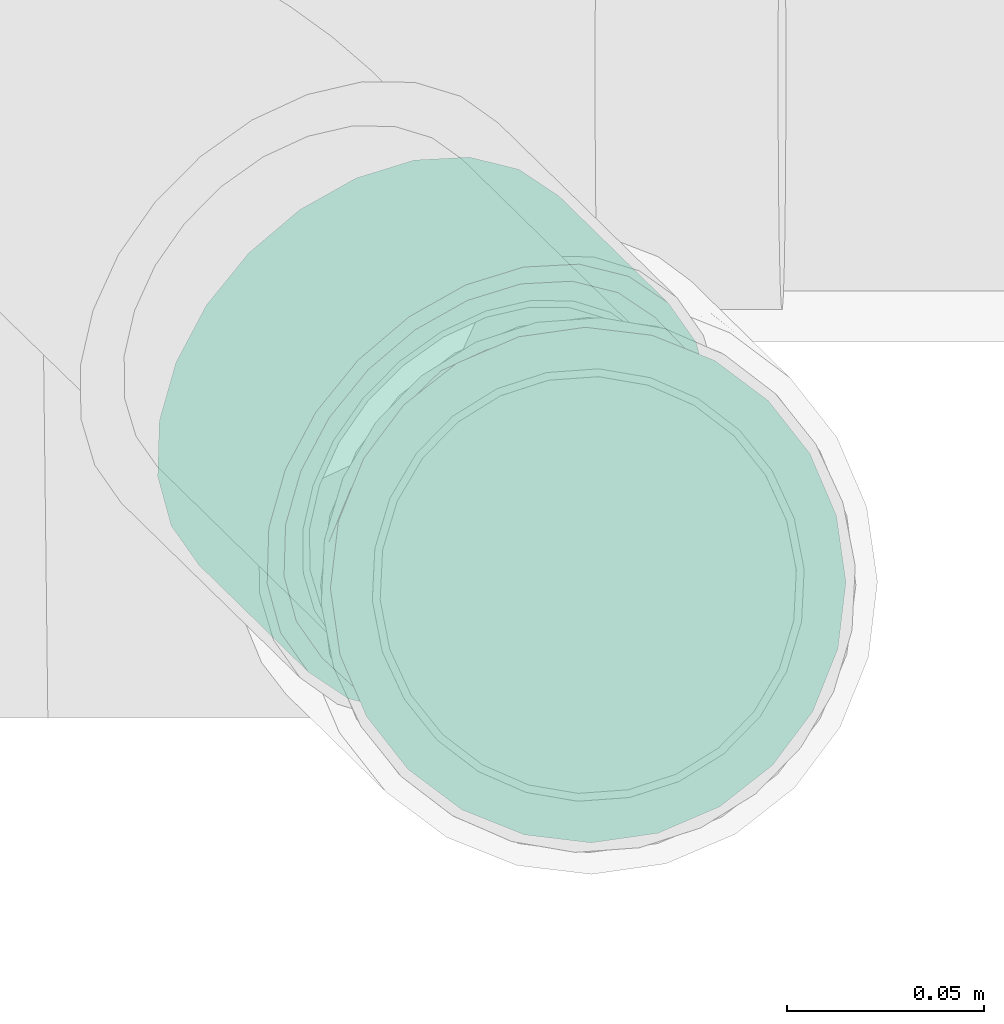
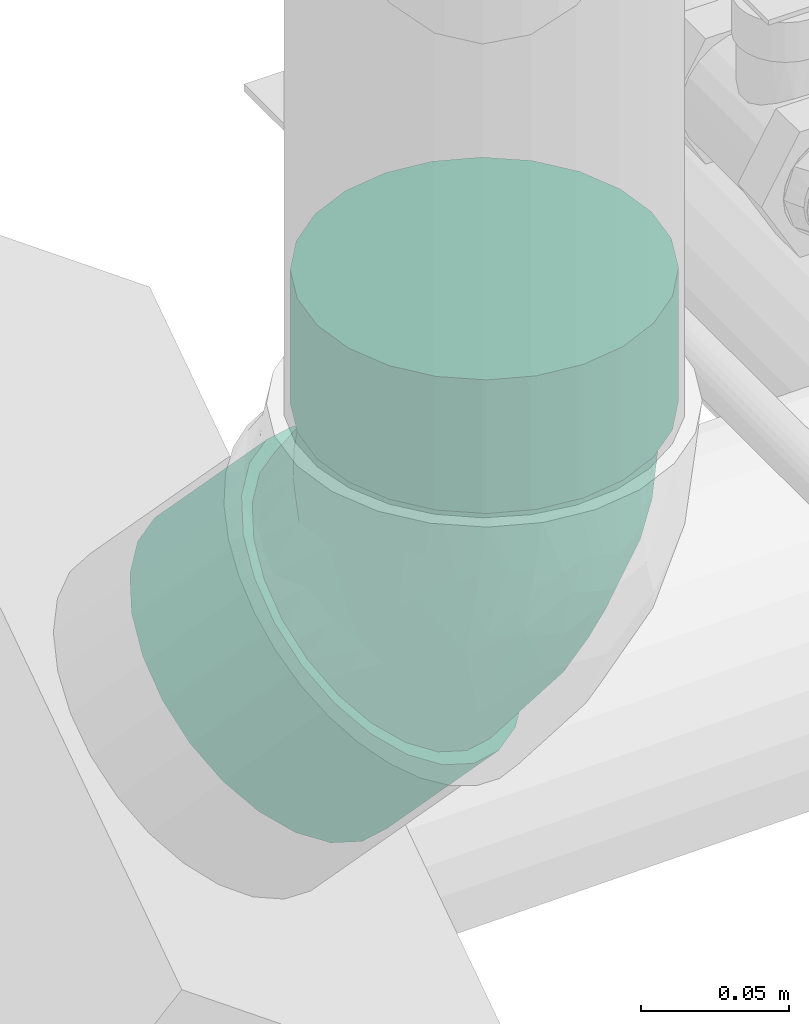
# One storey, part 121 of 156: 1 flow fitting.
"""IFC2X3 building model written with IfcOpenShell, lengths in millimetres."""

from ifc_helpers import new_model, entity, si_unit, converted_unit, derived_unit, direction, frame, origin_with_axes, place, context, subcontext, project, spatial, open_shell, surface_model, source, transform, mapped, type_object, element, save


model = new_model("IFC2X3")

# Units and contexts
model_context = context("Model", 3, precision=0.01, world=frame((0.0, 4.29681676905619e-09, 0.0)), true_north=direction((4.01073788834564e-13, 1.0)))
plan_context = context("Plan", 3, precision=0.01, world=frame((0.0, 4.29681676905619e-09, 0.0)), true_north=direction((4.01073788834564e-13, 1.0)))
body_context = subcontext(model_context, "Body", "Model", "MODEL_VIEW")
ifc_project = project(units=[converted_unit("PLANEANGLEUNIT", "DEGREE", entity("IfcPositiveLengthMeasure", 0.0174532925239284), si_unit("PLANEANGLEUNIT", "RADIAN"), dimensions=[0, 0, 0, 0, 0, 0, 0]), si_unit("AREAUNIT", "SQUARE_METRE"), si_unit("LENGTHUNIT", "METRE", prefix="MILLI"), si_unit("MASSUNIT", "GRAM", prefix="KILO"), si_unit("POWERUNIT", "WATT"), si_unit("PRESSUREUNIT", "PASCAL", prefix="KILO"), si_unit("FORCEUNIT", "NEWTON", prefix="KILO"), si_unit("ELECTRICVOLTAGEUNIT", "VOLT"), si_unit("ELECTRICCURRENTUNIT", "AMPERE"), si_unit("THERMODYNAMICTEMPERATUREUNIT", "DEGREE_CELSIUS"), si_unit("TIMEUNIT", "SECOND"), si_unit("VOLUMEUNIT", "CUBIC_METRE"), derived_unit("LINEARVELOCITYUNIT", [(si_unit("LENGTHUNIT", "METRE"), 1), (si_unit("TIMEUNIT", "SECOND"), -1)]), derived_unit("VOLUMETRICFLOWRATEUNIT", [(si_unit("VOLUMEUNIT", "CUBIC_METRE"), 1), (si_unit("TIMEUNIT", "SECOND"), -1)]), derived_unit("THERMALTRANSMITTANCEUNIT", [(si_unit("POWERUNIT", "WATT"), 1), (si_unit("THERMODYNAMICTEMPERATUREUNIT", "KELVIN"), -1), (si_unit("AREAUNIT", "SQUARE_METRE"), -1)]), derived_unit("SOUNDPRESSUREUNIT", [(si_unit("PRESSUREUNIT", "PASCAL"), 1)])], contexts=[model_context, plan_context])

# Site, building, storey
site_placement = place(None, frame((0.0, -4.29681676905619e-09, 0.0), z_axis=(0.0, 0.0, 1.0), x_axis=(1.0, 0.0, 0.0)))
site = spatial("IfcSite", under=ifc_project, at=site_placement, CompositionType="ELEMENT")
building_placement = place(site_placement, frame((0.0, 4.29681676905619e-09, 0.0), z_axis=(0.0, 0.0, 1.0), x_axis=(1.0, 0.0, 0.0)))
building = spatial("IfcBuilding", under=site, at=building_placement, Name="mc-building", CompositionType="ELEMENT")
storey_placement = place(building_placement, frame((0.0, 0.0, 205200.0), z_axis=(0.0, 0.0, 1.0), x_axis=(1.0, 0.0, 0.0)))
storey = spatial("IfcBuildingStorey", under=building, at=storey_placement, Name="Nivå D + 1,2 m", CompositionType="ELEMENT", Elevation=205200.0)

# Flow fitting
pipe_fitting_type = type_object("IfcPipeFittingType", Name="magi_sewer_bend_001", PredefinedType="BEND")
shared_shape = source(origin_with_axes(), body_context, "Body", "SurfaceModel", [
    surface_model("IfcShellBasedSurfaceModel", [(-105.13446, -16.95265, -63.26814), (-105.13446, -32.75, -56.72466), (-105.13446, -46.3155, -46.3155), (-105.13446, -63.26814, -16.95265), (-105.13446, 56.72466, -32.75), (-105.13446, -56.72466, -32.75), (-105.13446, -65.5, 0.0), (-105.13446, 16.95265, -63.26814), (-105.13446, 0.0, -65.5), (-105.13446, 32.75, -56.72466), (-105.13446, 46.3155, -46.3155), (-105.13446, 63.26814, -16.95265), (-105.13446, -63.26814, 16.95265), (-105.13446, -56.72466, 32.75), (-105.13446, -46.3155, 46.3155), (-105.13446, 63.26814, 16.95265), (-105.13446, -16.95265, 63.26814), (-105.13446, 0.0, 65.5), (-105.13446, -32.75, 56.72466), (-105.13446, 46.3155, 46.3155), (-105.13446, 56.72466, 32.75), (-105.13446, 65.5, 0.0), (-105.13446, 16.95265, 63.26814), (-105.13446, 32.75, 56.72466), (-50.13446, -16.95265, 63.26814), (-50.13446, 16.95265, 63.26814), (-50.13446, 0.0, 65.5), (-50.13446, -46.3155, 46.3155), (-50.13446, -32.75, 56.72466), (-50.13446, -56.72466, 32.75), (-50.13446, -63.26814, 16.95265), (-50.13446, 46.3155, 46.3155), (-50.13446, 32.75, 56.72466), (-50.13446, 63.26814, 16.95265), (-50.13446, 56.72466, 32.75), (-50.13446, 63.26814, -16.95265), (-50.13446, 65.5, 0.0), (-50.13446, -63.26814, -16.95265), (-50.13446, 32.75, -56.72466), (-50.13446, -65.5, 0.0), (-50.13446, -16.95265, -63.26814), (-50.13446, -56.72466, -32.75), (-50.13446, -46.3155, -46.3155), (-50.13446, -32.75, -56.72466), (-50.13446, 0.0, -65.5), (-50.13446, 46.3155, -46.3155), (-50.13446, 56.72466, -32.75), (-50.13446, 16.95265, -63.26814), (51.16343, 97.5096, 56.72466), (29.57939, 119.08473, 16.95265), (34.20728, 114.45875, 32.75), (41.5692, 107.09987, 46.3155), (62.33615, 86.34149, 63.26814), (51.16343, 97.5096, -56.72466), (74.32595, 74.35663, 65.5), (34.20728, 114.45875, -32.75), (29.57939, 119.08473, -16.95265), (28.0009, 120.66257, 0.0), (41.5692, 107.09987, -46.3155), (62.33615, 86.34149, -63.26814), (86.31576, 62.37177, 63.26814), (97.48848, 51.20366, 56.72466), (107.08271, 41.61338, 46.3155), (120.651, 28.05069, 0.0), (114.44462, 34.25451, 32.75), (119.07252, 29.62853, 16.95265), (86.31576, 62.37177, -63.26814), (119.07252, 29.62853, -16.95265), (97.48848, 51.20366, -56.72466), (74.32595, 74.35663, -65.5), (107.08271, 41.61338, -46.3155), (114.44462, 34.25451, -32.75), (80.18966, -9.27037, 16.95265), (80.18966, -9.27037, -16.95265), (81.76816, -10.84821, 0.0), (75.56178, -4.64439, 32.75), (68.19986, 2.71449, 46.3155), (58.60563, 12.30476, 56.72466), (47.43291, 23.47287, 63.26814), (68.19986, 2.71449, -46.3155), (75.56178, -4.64439, -32.75), (47.43291, 23.47287, -63.26814), (58.60563, 12.30476, -56.72466), (12.28058, 58.6107, -56.72466), (35.44311, 35.45773, -65.5), (23.4533, 47.44259, 63.26814), (2.68635, 68.20097, -46.3155), (-9.30346, 80.18583, 16.95265), (12.28058, 58.6107, 56.72466), (-4.67556, 75.55985, 32.75), (2.68635, 68.20097, 46.3155), (23.4533, 47.44259, -63.26814), (-9.30346, 80.18583, -16.95265), (-4.67556, 75.55985, -32.75), (-10.88194, 81.76367, 0.0), (35.44311, 35.45773, 65.5), (-50.13446, 15.65855, -58.43851), (-50.13446, 0.0, -60.5), (-50.13446, 58.43851, -15.65855), (-50.13446, 30.25, -52.39454), (-50.13446, 52.39454, -30.25), (-50.13446, 42.77996, -42.77996), (-50.13446, -60.5, 0.0), (-50.13446, -30.25, -52.39454), (-50.13446, -42.77996, -42.77996), (-50.13446, -15.65855, -58.43851), (-50.13446, -58.43851, -15.65855), (-50.13446, -52.39454, -30.25), (-50.13446, -58.43851, 15.65855), (-50.13446, 58.43851, 15.65855), (-50.13446, 52.39454, 30.25), (-50.13446, 42.77996, 42.77996), (-50.13446, 30.25, 52.39454), (-50.13446, 15.65855, 58.43851), (-50.13446, -52.39454, 30.25), (-50.13446, -42.77996, 42.77996), (-50.13446, -30.25, 52.39454), (-50.13446, -15.65855, 58.43851), (-50.13446, 0.0, 60.5), (-50.13446, 60.5, 0.0), (35.44311, 35.45773, -60.5), (24.36855, 46.52772, -58.43851), (14.04871, 56.8433, -52.39454), (76.7739, -5.85601, 15.65855), (46.51766, 24.38775, -58.43851), (-7.34568, 78.22886, 0.0), (5.18687, 65.70149, -42.77996), (-1.61307, 72.49862, -30.25), (65.69935, 5.21397, -42.77996), (56.8375, 14.07217, -52.39454), (78.23189, -7.3134, 0.0), (72.49928, -1.58316, -30.25), (76.7739, -5.85601, -15.65855), (-5.88769, 76.77148, -15.65855), (-5.88769, 76.77148, 15.65855), (-1.61307, 72.49862, 30.25), (14.04871, 56.8433, 52.39454), (24.36855, 46.52772, 58.43851), (5.18687, 65.70149, 42.77996), (35.44311, 35.45773, 60.5), (72.49928, -1.58316, 30.25), (56.8375, 14.07217, 52.39454), (65.69935, 5.21397, 42.77996), (46.51766, 24.38775, 58.43851), (15.4111, -37.19484, 33.71314), (-13.39347, -34.19252, 46.68361), (-19.54962, -46.27113, 35.42466), (-20.22901, -56.56183, 0.0), (-3.14675, -54.31231, 0.0), (-12.92218, -55.73651, 10.32991), (46.5462, -18.88536, 35.42466), (-23.97865, -22.18414, 55.29354), (6.212, -14.99273, 54.53085), (1.79067, 36.37599, 56.46852), (10.93992, 28.64578, 59.62059), (-18.06699, -5.8248, 59.69836), (-5.75738, 13.89548, 60.28753), (-30.32113, 8.384, 60.13293), (-17.19118, 41.49108, 49.39324), (-26.69429, 50.73807, 38.17995), (32.64176, 1.27565, 55.29354), (-23.25826, 25.17577, 56.55919), (23.35694, -39.58686, 23.84108), (-10.85547, -52.34044, 21.00915), (18.78652, -45.34144, 13.14653), (-24.93148, 60.17235, 24.8569), (48.55528, -30.26429, 10.32991), (54.30462, -25.67998, 0.0), (-24.23726, 64.83209, 12.71224), (44.6923, -29.32508, 21.00915), (16.89226, 8.66002, 59.69836), (33.65141, -14.70021, 46.68361), (-26.97635, 65.10768, 0.0), (10.1569, -24.51378, 48.242), (18.7452, -45.24172, 0.0), (40.63715, -36.17113, 0.0), (-18.06699, -5.8248, -59.69836), (-12.92218, -55.73651, -10.32991), (18.78652, -45.34144, -13.14653), (16.89226, 8.66002, -59.69836), (-26.99295, 24.44994, -56.46852), (-27.9939, 12.51415, -59.62059), (-17.01282, 54.74944, -38.17995), (33.65141, -14.70021, -46.68361), (-24.93148, 60.17235, -24.8569), (44.6923, -29.32508, -21.00915), (-28.71787, 62.97562, -12.71224), (-1.36295, 34.24775, -56.55919), (-10.85547, -52.34044, -21.00915), (-17.19118, 41.49107, -49.39324), (-19.54962, -46.27113, -35.42466), (-13.39347, -34.19252, -46.6836), (10.1569, -24.51378, -48.242), (15.4111, -37.19484, -33.71314), (-23.97865, -22.18414, -55.29354), (32.64176, 1.27565, -55.29354), (6.212, -14.99273, -54.53085), (48.55528, -30.26429, -10.32991), (15.50624, 27.37186, -60.13293), (11.48547, -44.50562, -23.84108), (46.5462, -18.88536, -35.42466), (-5.75738, 13.89548, -60.28753)], [open_shell([[[0, 1, 2]], [[0, 2, 3]], [[0, 3, 4]], [[3, 2, 5]], [[4, 3, 6]], [[0, 7, 8]], [[0, 9, 7]], [[10, 9, 0]], [[0, 4, 10]], [[6, 11, 4]], [[6, 12, 11]], [[12, 13, 14]], [[11, 14, 15]], [[16, 17, 14]], [[16, 14, 18]], [[15, 14, 17]], [[15, 19, 20]], [[21, 11, 15]], [[19, 22, 23]], [[22, 19, 15]], [[17, 22, 15]], [[11, 12, 14]], [[24, 25, 26]], [[27, 24, 28]], [[27, 29, 30]], [[24, 27, 25]], [[30, 25, 27]], [[25, 31, 32]], [[31, 25, 33]], [[31, 33, 34]], [[25, 30, 33]], [[33, 35, 36]], [[33, 30, 35]], [[37, 38, 39]], [[40, 37, 41]], [[42, 43, 40]], [[42, 40, 41]], [[44, 37, 40]], [[39, 45, 46]], [[46, 35, 39]], [[38, 44, 47]], [[38, 45, 39]], [[38, 37, 44]], [[39, 35, 30]], [[35, 11, 36]], [[46, 4, 35]], [[47, 44, 7]], [[45, 10, 46]], [[35, 4, 11]], [[11, 21, 36]], [[9, 38, 7]], [[9, 10, 45]], [[38, 47, 7]], [[10, 4, 46]], [[45, 38, 9]], [[44, 8, 7]], [[0, 40, 43]], [[42, 1, 43]], [[5, 41, 37]], [[42, 41, 2]], [[3, 37, 39]], [[40, 0, 8]], [[43, 1, 0]], [[42, 2, 1]], [[41, 5, 2]], [[3, 5, 37]], [[39, 6, 3]], [[40, 8, 44]], [[30, 12, 39]], [[29, 13, 30]], [[28, 18, 27]], [[27, 14, 29]], [[30, 13, 12]], [[12, 6, 39]], [[17, 16, 24]], [[16, 18, 28]], [[14, 27, 18]], [[14, 13, 29]], [[24, 16, 28]], [[24, 26, 17]], [[22, 25, 32]], [[31, 23, 32]], [[20, 34, 33]], [[31, 34, 19]], [[15, 33, 36]], [[25, 22, 17]], [[32, 23, 22]], [[31, 19, 23]], [[34, 20, 19]], [[15, 20, 33]], [[36, 21, 15]], [[25, 17, 26]], [[48, 49, 50]], [[48, 50, 51]], [[49, 52, 53]], [[52, 49, 48]], [[53, 52, 54]], [[49, 55, 56]], [[56, 57, 49]], [[58, 55, 49]], [[53, 58, 49]], [[54, 59, 53]], [[54, 60, 59]], [[60, 61, 62]], [[60, 62, 63]], [[64, 65, 63]], [[64, 63, 62]], [[60, 63, 66]], [[66, 67, 68]], [[69, 59, 66]], [[70, 67, 71]], [[67, 70, 68]], [[63, 67, 66]], [[66, 59, 60]], [[72, 73, 74]], [[75, 73, 72]], [[76, 77, 78]], [[73, 75, 76]], [[78, 73, 76]], [[73, 79, 80]], [[79, 73, 81]], [[79, 81, 82]], [[73, 78, 81]], [[81, 83, 84]], [[81, 78, 85]], [[85, 86, 81]], [[87, 85, 88]], [[89, 87, 88]], [[89, 88, 90]], [[86, 85, 87]], [[86, 83, 81]], [[91, 84, 83]], [[86, 92, 93]], [[92, 86, 94]], [[94, 86, 87]], [[85, 78, 95]], [[91, 59, 84]], [[83, 53, 91]], [[92, 94, 56]], [[86, 58, 83]], [[91, 53, 59]], [[59, 69, 84]], [[55, 93, 56]], [[55, 58, 86]], [[93, 92, 56]], [[58, 53, 83]], [[86, 93, 55]], [[94, 57, 56]], [[49, 87, 89]], [[90, 50, 89]], [[48, 88, 85]], [[90, 88, 51]], [[52, 85, 95]], [[87, 49, 57]], [[89, 50, 49]], [[90, 51, 50]], [[88, 48, 51]], [[52, 48, 85]], [[95, 54, 52]], [[87, 57, 94]], [[60, 95, 78]], [[61, 78, 77]], [[64, 75, 72]], [[65, 72, 74]], [[78, 61, 60]], [[60, 54, 95]], [[76, 62, 61]], [[62, 76, 64]], [[64, 76, 75]], [[72, 65, 64]], [[76, 61, 77]], [[74, 63, 65]], [[67, 73, 80]], [[79, 71, 80]], [[68, 82, 81]], [[79, 82, 70]], [[66, 81, 84]], [[73, 67, 63]], [[80, 71, 67]], [[79, 70, 71]], [[82, 68, 70]], [[66, 68, 81]], [[84, 69, 66]], [[73, 63, 74]], [[96, 97, 98]], [[99, 96, 98]], [[98, 100, 101]], [[99, 98, 101]], [[102, 98, 97]], [[103, 104, 105]], [[104, 97, 105]], [[106, 102, 107]], [[104, 107, 102]], [[104, 102, 97]], [[102, 108, 98]], [[109, 98, 108]], [[110, 109, 111]], [[112, 109, 108]], [[111, 109, 112]], [[113, 112, 108]], [[114, 115, 108]], [[116, 108, 115]], [[117, 118, 116]], [[108, 116, 118]], [[118, 113, 108]], [[119, 98, 109]], [[120, 121, 122]], [[123, 124, 120]], [[125, 126, 127]], [[122, 123, 120]], [[122, 126, 123]], [[124, 128, 129]], [[130, 128, 123]], [[131, 130, 132]], [[130, 131, 128]], [[123, 128, 124]], [[125, 127, 133]], [[125, 134, 135]], [[125, 135, 136]], [[136, 137, 125]], [[136, 135, 138]], [[125, 137, 139]], [[140, 141, 142]], [[141, 140, 123]], [[141, 139, 143]], [[139, 141, 123]], [[123, 125, 139]], [[125, 123, 126]], [[144, 145, 146]], [[147, 148, 149]], [[116, 115, 145]], [[140, 142, 150]], [[151, 145, 152]], [[146, 145, 115]], [[137, 153, 154]], [[117, 116, 151]], [[155, 156, 157]], [[118, 117, 155]], [[111, 158, 159]], [[141, 143, 160]], [[157, 113, 118]], [[112, 161, 158]], [[108, 147, 149]], [[136, 138, 158]], [[162, 163, 164]], [[158, 111, 112]], [[115, 114, 146]], [[110, 159, 165]], [[109, 110, 165]], [[123, 166, 167]], [[168, 119, 109]], [[169, 162, 164]], [[163, 149, 164]], [[112, 113, 161]], [[139, 154, 170]], [[142, 141, 171]], [[135, 134, 165]], [[170, 143, 139]], [[144, 146, 163]], [[142, 171, 150]], [[156, 154, 153]], [[171, 141, 160]], [[114, 163, 146]], [[166, 123, 169]], [[144, 150, 171]], [[157, 161, 113]], [[144, 162, 150]], [[109, 165, 168]], [[114, 108, 163]], [[172, 168, 125]], [[145, 173, 152]], [[134, 168, 165]], [[152, 170, 155]], [[135, 165, 159]], [[152, 160, 170]], [[135, 159, 138]], [[156, 155, 170]], [[137, 136, 153]], [[153, 158, 161]], [[151, 155, 117]], [[110, 111, 159]], [[169, 123, 140]], [[169, 140, 150]], [[173, 144, 171]], [[138, 159, 158]], [[158, 153, 136]], [[156, 153, 161]], [[145, 151, 116]], [[155, 151, 152]], [[170, 160, 143]], [[171, 160, 152]], [[108, 102, 147]], [[164, 148, 174]], [[108, 149, 163]], [[148, 164, 149]], [[166, 164, 175]], [[167, 166, 175]], [[167, 130, 123]], [[164, 166, 169]], [[170, 154, 156]], [[139, 137, 154]], [[155, 157, 118]], [[161, 157, 156]], [[144, 173, 145]], [[171, 152, 173]], [[125, 168, 134]], [[168, 172, 119]], [[150, 162, 169]], [[163, 162, 144]], [[175, 164, 174]], [[105, 97, 176]], [[148, 177, 178]], [[120, 124, 179]], [[180, 181, 96]], [[100, 182, 101]], [[129, 128, 183]], [[184, 182, 100]], [[131, 132, 185]], [[98, 186, 184]], [[122, 121, 187]], [[106, 177, 147]], [[99, 180, 96]], [[177, 106, 188]], [[126, 189, 182]], [[188, 107, 190]], [[190, 104, 191]], [[104, 103, 191]], [[192, 193, 191]], [[106, 107, 188]], [[104, 190, 107]], [[194, 103, 105]], [[195, 179, 124]], [[133, 127, 184]], [[196, 194, 176]], [[119, 172, 186]], [[193, 190, 191]], [[125, 133, 186]], [[196, 176, 179]], [[126, 122, 189]], [[184, 100, 98]], [[127, 182, 184]], [[194, 191, 103]], [[187, 189, 122]], [[181, 176, 97]], [[189, 187, 180]], [[101, 189, 99]], [[132, 167, 197]], [[198, 121, 120]], [[195, 124, 129]], [[199, 185, 178]], [[128, 200, 183]], [[196, 195, 183]], [[128, 131, 200]], [[201, 198, 179]], [[200, 193, 183]], [[201, 179, 176]], [[197, 167, 175]], [[198, 187, 121]], [[201, 181, 180]], [[177, 188, 178]], [[193, 199, 190]], [[183, 192, 196]], [[131, 185, 200]], [[133, 184, 186]], [[193, 200, 185]], [[127, 126, 182]], [[101, 182, 189]], [[189, 180, 99]], [[201, 180, 187]], [[176, 194, 105]], [[191, 194, 196]], [[183, 195, 129]], [[179, 195, 196]], [[147, 177, 148]], [[147, 102, 106]], [[199, 178, 188]], [[197, 178, 185]], [[178, 175, 174]], [[132, 130, 167]], [[178, 197, 175]], [[132, 197, 185]], [[176, 181, 201]], [[97, 96, 181]], [[179, 198, 120]], [[187, 198, 201]], [[193, 192, 183]], [[191, 196, 192]], [[119, 186, 98]], [[186, 172, 125]], [[190, 199, 188]], [[185, 199, 193]], [[148, 178, 174]]])]),
])
flow_fitting_placement = place(storey_placement, frame((326488.40178, 462595.06172, 4377.05914), z_axis=(0.698904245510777, 0.7152152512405, 0.0), x_axis=(0.0, 0.0, -1.0)))
element("IfcFlowFitting", 1, at=flow_fitting_placement, inside=storey, type_object=pipe_fitting_type, Name="magi_sewer_bend_001", context=body_context, shape_type="MappedRepresentation", body=[
    mapped(shared_shape, transform((0.0, 0.0, 0.0), scale=1.0)),
])

save(model, "model.ifc")
